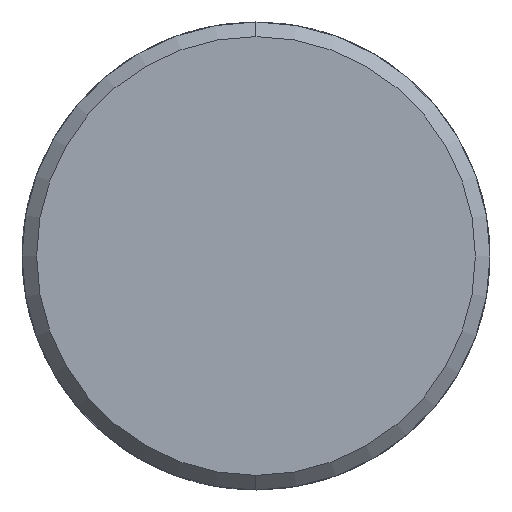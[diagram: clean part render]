
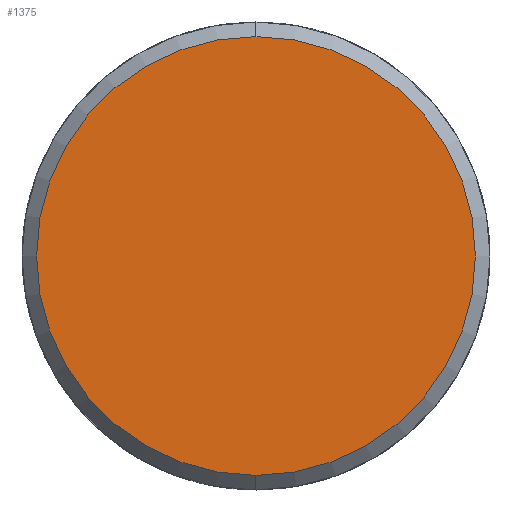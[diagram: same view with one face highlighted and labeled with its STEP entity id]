
A CAD part, left-side view. The second image highlights one B-rep face of the part: STEP entity #1375.
In plain terms, the highlighted planar face has unit normal (-1, 0, 0).
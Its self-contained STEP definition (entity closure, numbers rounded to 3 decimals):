
#502 = ORIENTED_EDGE ( 'NONE', *, *, #1753, .F. ) ;
#1375 = ADVANCED_FACE ( 'NONE', ( #5913 ), #7897, .T. ) ;
#1395 = AXIS2_PLACEMENT_3D ( 'NONE', #5386, #5362, #5356 ) ;
#1753 = EDGE_CURVE ( 'NONE', #6457, #2813, #4421, .T. ) ;
#1872 = EDGE_CURVE ( 'NONE', #2813, #6457, #7150, .T. ) ;
#2813 = VERTEX_POINT ( 'NONE', #4010 ) ;
#3243 = AXIS2_PLACEMENT_3D ( 'NONE', #4922, #4910, #4905 ) ;
#3468 = CARTESIAN_POINT ( 'NONE',  ( 0., 0., -7.5 ) ) ;
#4010 = CARTESIAN_POINT ( 'NONE',  ( 0., 0., 7.5 ) ) ;
#4033 = ORIENTED_EDGE ( 'NONE', *, *, #1872, .F. ) ;
#4421 = CIRCLE ( 'NONE', #1395, 7.5 ) ;
#4905 = DIRECTION ( 'NONE',  ( 0., 0., -1. ) ) ;
#4910 = DIRECTION ( 'NONE',  ( 1., 0., 0. ) ) ;
#4922 = CARTESIAN_POINT ( 'NONE',  ( 0., 0., 0. ) ) ;
#5356 = DIRECTION ( 'NONE',  ( 0., 0., -1. ) ) ;
#5362 = DIRECTION ( 'NONE',  ( 1., 0., 0. ) ) ;
#5386 = CARTESIAN_POINT ( 'NONE',  ( 0., 0., 0. ) ) ;
#5913 = FACE_OUTER_BOUND ( 'NONE', #6355, .T. ) ;
#6355 = EDGE_LOOP ( 'NONE', ( #502, #4033 ) ) ;
#6457 = VERTEX_POINT ( 'NONE', #3468 ) ;
#7150 = CIRCLE ( 'NONE', #3243, 7.5 ) ;
#7289 = AXIS2_PLACEMENT_3D ( 'NONE', #7792, #7784, #7760 ) ;
#7760 = DIRECTION ( 'NONE',  ( 0., 0., 1. ) ) ;
#7784 = DIRECTION ( 'NONE',  ( -1., 0., 0. ) ) ;
#7792 = CARTESIAN_POINT ( 'NONE',  ( 0., 0., 0. ) ) ;
#7897 = PLANE ( 'NONE',  #7289 ) ;
